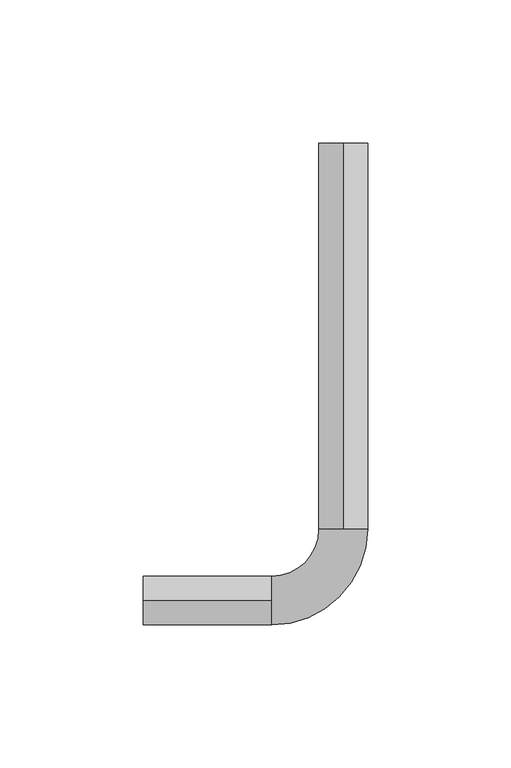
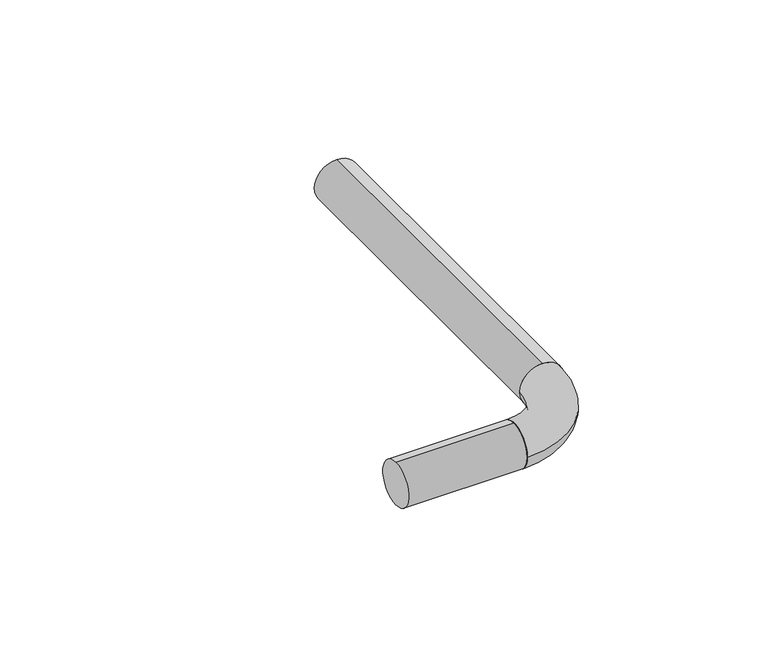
"""IFC4 building model written with IfcOpenShell, lengths in millimetres: pipe fitting geometry, VALTEC_VTi.960.I : VTi.960."""

from ifc_helpers import new_model, si_unit, point, frame, origin, origin_2d, place, context, project, spatial, circle_curve, ellipse_curve, trimmed, segment, composite_curve, outline, extrude, source, transform, mapped, element, save
from ifc_brep_helpers import plane_surface, revolved_surface, advanced_brep


def pipe_fitting_4c800e63(model_context):
    return source(origin(), model_context, "Body", "SolidModel", [
        advanced_brep(
        [(-25.0, -8.5, 0.0), (-25.0, 8.5, 0.0), (8.5, 25.0, 0.0), (-8.5, 25.0, 0.0)],
        [
            (0, 1, circle_curve(frame((-25.0, 0.0, 0.0), z_axis=(-1.0, 0.0, 0.0), x_axis=(0.0, 1.0, 0.0)), 8.5)),
            (1, 0, circle_curve(frame((-25.0, 0.0, 0.0), z_axis=(-1.0, 0.0, 0.0), x_axis=(0.0, 1.0, 0.0)), 8.5)),
            (2, 3, circle_curve(frame((0.0, 25.0, 0.0), z_axis=(0.0, 1.0, 0.0), x_axis=(-1.0, 0.0, 0.0)), 8.5)),
            (3, 2, circle_curve(frame((0.0, 25.0, 0.0), z_axis=(0.0, 1.0, 0.0), x_axis=(-1.0, 0.0, 0.0)), 8.5)),
            (3, 1, circle_curve(frame((-25.0, 25.0, 0.0), z_axis=(0.0, 0.0, -1.0), x_axis=(0.0, -1.0, 0.0)), 16.5)),
            (0, 2, circle_curve(frame((-25.0, 25.0, 0.0), z_axis=(0.0, 0.0, 1.0), x_axis=(0.0, -1.0, 0.0)), 33.5)),
        ],
        [
            plane_surface(frame((-25.0, 0.0, 0.0), z_axis=(-1.0, 0.0, 0.0), x_axis=(0.0, 0.0, 1.0))),
            plane_surface(frame((0.0, 25.0, 0.0), z_axis=(0.0, 1.0, 0.0), x_axis=(0.0, 0.0, 1.0))),
            revolved_surface(trimmed(ellipse_curve(frame((-25.0, 0.0, 0.0), z_axis=(-1.0, 0.0, 0.0), x_axis=(0.0, 1.0, 0.0)), 8.5, 8.5), [point((-25.0, -8.5, 0.0))], [point((-25.0, 8.5, 0.0))], True, "CARTESIAN"), (-25.0, 25.0, 0.0), (0.0, 0.0, 1.0)),
            revolved_surface(trimmed(ellipse_curve(frame((-25.0, 0.0, 0.0), z_axis=(-1.0, 0.0, 0.0), x_axis=(0.0, 1.0, 0.0)), 8.5, 8.5), [point((-25.0, 8.5, 0.0))], [point((-25.0, -8.5, 0.0))], True, "CARTESIAN"), (-25.0, 25.0, 0.0), (0.0, 0.0, 1.0)),
        ],
        [
            (0, [[1, 2]]),
            (1, [[3, 4]]),
            (2, [[5, -1, 6, -4]]),
            (3, [[-6, -2, -5, -3]]),
        ],
    ),
        extrude(outline(composite_curve([segment(trimmed(circle_curve(origin_2d(), 8.5), [point((0.0, -8.5))], [point((0.0, 8.5))], False, "CARTESIAN"), True, "CONTINUOUS"), segment(trimmed(circle_curve(origin_2d(), 8.5), [point((0.0, 8.5))], [point((0.0, -8.5))], False, "CARTESIAN"), True, "CONTINUOUS")], self_intersect=False)), frame((-70.0, 0.0, 0.0), z_axis=(1.0, 0.0, 0.0), x_axis=(0.0, 1.0, 0.0)), (0.0, 0.0, 1.0), 45.0),
        extrude(outline(composite_curve([segment(trimmed(circle_curve(origin_2d(), 8.5), [point((-8.5, 0.0))], [point((8.5, 0.0))], False, "CARTESIAN"), True, "CONTINUOUS"), segment(trimmed(circle_curve(origin_2d(), 8.5), [point((8.5, 0.0))], [point((-8.5, 0.0))], False, "CARTESIAN"), True, "CONTINUOUS")], self_intersect=False)), frame((0.0, 25.0, 0.0), z_axis=(0.0, 1.0, 0.0), x_axis=(0.0, 0.0, 1.0)), (0.0, 0.0, 1.0), 135.0),
    ])


if __name__ == "__main__":
    model = new_model("IFC4")
    model_context = context("Model", 3, world=origin())
    ifc_project = project(units=[si_unit("LENGTHUNIT", "METRE", prefix="MILLI")], contexts=[model_context])
    site = spatial("IfcSite", under=ifc_project)
    building = spatial("IfcBuilding", under=site)
    placement = place(None, origin())
    pipe_fitting_shape = pipe_fitting_4c800e63(model_context)
    element("IfcPipeFitting", 1, ObjectType="VALTEC_VTi.960.I : VTi.960", at=placement, inside=building, context=model_context, shape_type="MappedRepresentation", body=[
        mapped(pipe_fitting_shape, transform((0.0, 0.0, 0.0), x_axis=(1.0, 0.0, 0.0), y_axis=(0.0, 1.0, 0.0), z_axis=(0.0, 0.0, 1.0))),
    ])
    save(model, "model.ifc")
